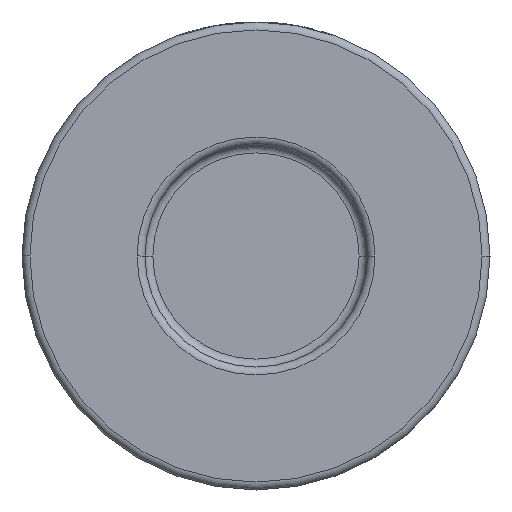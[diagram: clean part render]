
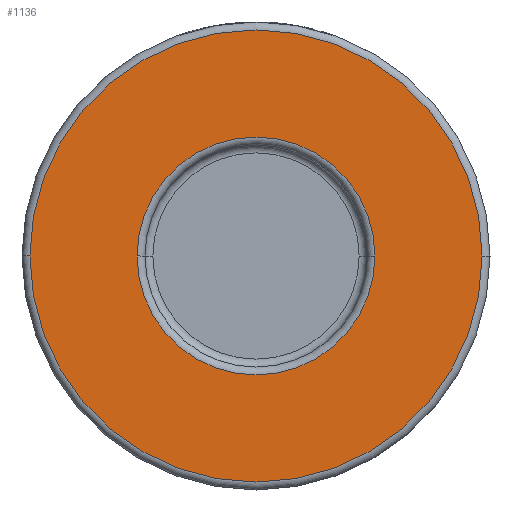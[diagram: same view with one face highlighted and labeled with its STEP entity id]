
A CAD part, front view. The second image highlights one B-rep face of the part: STEP entity #1136.
In plain terms, the highlighted planar face has unit normal (0, -1, 0).
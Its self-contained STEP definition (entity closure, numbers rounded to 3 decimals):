
#87 = AXIS2_PLACEMENT_3D ( 'NONE', #2985, #4414, #1623 ) ;
#442 = VERTEX_POINT ( 'NONE', #3399 ) ;
#554 = DIRECTION ( 'NONE',  ( 0., -1., 0. ) ) ;
#566 = EDGE_CURVE ( 'NONE', #442, #2686, #2704, .T. ) ;
#695 = EDGE_CURVE ( 'NONE', #4314, #1638, #2915, .T. ) ;
#721 = DIRECTION ( 'NONE',  ( 1., 0., 0. ) ) ;
#737 = DIRECTION ( 'NONE',  ( 0., -1., 0. ) ) ;
#869 = ORIENTED_EDGE ( 'NONE', *, *, #695, .T. ) ;
#895 = PLANE ( 'NONE',  #1099 ) ;
#1099 = AXIS2_PLACEMENT_3D ( 'NONE', #3667, #554, #4367 ) ;
#1136 = ADVANCED_FACE ( 'NONE', ( #4008, #1281 ), #895, .T. ) ;
#1151 = EDGE_CURVE ( 'NONE', #1638, #4314, #2059, .T. ) ;
#1199 = AXIS2_PLACEMENT_3D ( 'NONE', #2088, #2065, #3442 ) ;
#1281 = FACE_OUTER_BOUND ( 'NONE', #3072, .T. ) ;
#1408 = EDGE_LOOP ( 'NONE', ( #3049, #869 ) ) ;
#1414 = DIRECTION ( 'NONE',  ( 1., 0., 0. ) ) ;
#1490 = CIRCLE ( 'NONE', #1199, 28.5 ) ;
#1623 = DIRECTION ( 'NONE',  ( 1., 0., 0. ) ) ;
#1638 = VERTEX_POINT ( 'NONE', #4337 ) ;
#1931 = CARTESIAN_POINT ( 'NONE',  ( 28.5, -19., 0. ) ) ;
#2059 = CIRCLE ( 'NONE', #87, 15. ) ;
#2065 = DIRECTION ( 'NONE',  ( 0., -1., 0. ) ) ;
#2088 = CARTESIAN_POINT ( 'NONE',  ( 0., -19., 0. ) ) ;
#2111 = CARTESIAN_POINT ( 'NONE',  ( 0., -19., 0. ) ) ;
#2416 = AXIS2_PLACEMENT_3D ( 'NONE', #2111, #737, #721 ) ;
#2422 = CARTESIAN_POINT ( 'NONE',  ( 0., -19., 0. ) ) ;
#2646 = ORIENTED_EDGE ( 'NONE', *, *, #3211, .T. ) ;
#2686 = VERTEX_POINT ( 'NONE', #1931 ) ;
#2704 = CIRCLE ( 'NONE', #2416, 28.5 ) ;
#2915 = CIRCLE ( 'NONE', #3854, 15. ) ;
#2985 = CARTESIAN_POINT ( 'NONE',  ( 0., -19., 0. ) ) ;
#3049 = ORIENTED_EDGE ( 'NONE', *, *, #1151, .T. ) ;
#3072 = EDGE_LOOP ( 'NONE', ( #2646, #3270 ) ) ;
#3142 = DIRECTION ( 'NONE',  ( 0., 1., 0. ) ) ;
#3211 = EDGE_CURVE ( 'NONE', #2686, #442, #1490, .T. ) ;
#3270 = ORIENTED_EDGE ( 'NONE', *, *, #566, .T. ) ;
#3399 = CARTESIAN_POINT ( 'NONE',  ( -28.5, -19., 0. ) ) ;
#3442 = DIRECTION ( 'NONE',  ( 1., 0., 0. ) ) ;
#3667 = CARTESIAN_POINT ( 'NONE',  ( 29.5, -19., 0. ) ) ;
#3854 = AXIS2_PLACEMENT_3D ( 'NONE', #2422, #3142, #1414 ) ;
#4008 = FACE_BOUND ( 'NONE', #1408, .T. ) ;
#4314 = VERTEX_POINT ( 'NONE', #4424 ) ;
#4337 = CARTESIAN_POINT ( 'NONE',  ( 15., -19., 0. ) ) ;
#4367 = DIRECTION ( 'NONE',  ( 1., 0., 0. ) ) ;
#4414 = DIRECTION ( 'NONE',  ( 0., 1., 0. ) ) ;
#4424 = CARTESIAN_POINT ( 'NONE',  ( -15., -19., 0. ) ) ;
